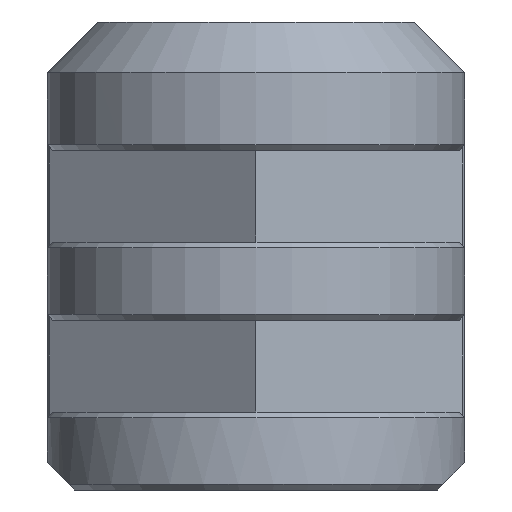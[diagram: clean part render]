
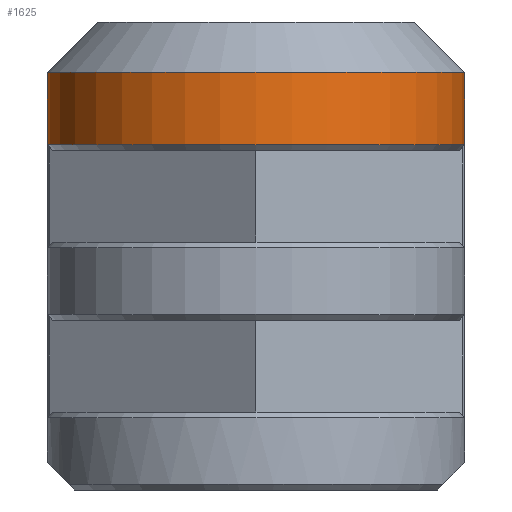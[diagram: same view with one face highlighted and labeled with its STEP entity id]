
A CAD part, left-side view. The second image highlights one B-rep face of the part: STEP entity #1625.
In plain terms, the highlighted cylindrical face has radius 7.5 mm (diameter 15 mm), a partial arc.
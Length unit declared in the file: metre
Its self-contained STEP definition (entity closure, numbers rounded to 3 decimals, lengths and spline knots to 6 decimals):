
#32=ELLIPSE('',#1742,0.010607,0.0075);
#33=ELLIPSE('',#1744,0.010607,0.0075);
#46=CIRCLE('',#1741,0.0075);
#47=CIRCLE('',#1743,0.0075);
#70=CYLINDRICAL_SURFACE('',#1740,0.0075);
#147=ORIENTED_EDGE('',*,*,#587,.T.);
#148=ORIENTED_EDGE('',*,*,#611,.T.);
#149=ORIENTED_EDGE('',*,*,#563,.F.);
#150=ORIENTED_EDGE('',*,*,#612,.T.);
#151=ORIENTED_EDGE('',*,*,#613,.T.);
#152=ORIENTED_EDGE('',*,*,#614,.T.);
#563=EDGE_CURVE('',#797,#798,#948,.T.);
#587=EDGE_CURVE('',#822,#821,#972,.T.);
#611=EDGE_CURVE('',#821,#798,#46,.F.);
#612=EDGE_CURVE('',#797,#841,#32,.F.);
#613=EDGE_CURVE('',#841,#842,#47,.F.);
#614=EDGE_CURVE('',#842,#822,#33,.T.);
#797=VERTEX_POINT('',#2341);
#798=VERTEX_POINT('',#2343);
#821=VERTEX_POINT('',#2390);
#822=VERTEX_POINT('',#2392);
#841=VERTEX_POINT('',#2442);
#842=VERTEX_POINT('',#2444);
#948=LINE('',#2342,#1145);
#972=LINE('',#2391,#1169);
#1145=VECTOR('',#1872,1.);
#1169=VECTOR('',#1898,1.);
#1336=EDGE_LOOP('',(#147,#148,#149,#150,#151,#152));
#1447=FACE_BOUND('',#1336,.T.);
#1625=ADVANCED_FACE('',(#1447),#70,.T.);
#1740=AXIS2_PLACEMENT_3D('',#2439,#1942,#1943);
#1741=AXIS2_PLACEMENT_3D('',#2440,#1944,#1945);
#1742=AXIS2_PLACEMENT_3D('',#2441,#1946,#1947);
#1743=AXIS2_PLACEMENT_3D('',#2443,#1948,#1949);
#1744=AXIS2_PLACEMENT_3D('',#2445,#1950,#1951);
#1872=DIRECTION('',(0.,0.,-1.));
#1898=DIRECTION('',(0.,0.,-1.));
#1942=DIRECTION('',(0.,0.,-1.));
#1943=DIRECTION('',(-1.,0.,0.));
#1944=DIRECTION('',(0.,0.,-1.));
#1945=DIRECTION('',(-1.,0.,0.));
#1946=DIRECTION('',(0.,0.707,-0.707));
#1947=DIRECTION('',(0.,-0.707,-0.707));
#1948=DIRECTION('',(0.,0.,1.));
#1949=DIRECTION('',(1.,0.,0.));
#1950=DIRECTION('',(0.,0.707,0.707));
#1951=DIRECTION('',(0.,0.707,-0.707));
#2341=CARTESIAN_POINT('',(-0.045,-0.0075,0.014));
#2342=CARTESIAN_POINT('',(-0.045,-0.0075,0.015));
#2343=CARTESIAN_POINT('',(-0.045,-0.0075,0.0124));
#2390=CARTESIAN_POINT('',(-0.045,0.0075,0.0124));
#2391=CARTESIAN_POINT('',(-0.045,0.0075,0.015));
#2392=CARTESIAN_POINT('',(-0.045,0.0075,0.014));
#2439=CARTESIAN_POINT('',(-0.045,0.,0.015));
#2440=CARTESIAN_POINT('',(-0.045,0.,0.0124));
#2441=CARTESIAN_POINT('',(-0.045,0.,0.0215));
#2442=CARTESIAN_POINT('',(-0.041258,-0.0065,0.015));
#2443=CARTESIAN_POINT('',(-0.045,0.,0.015));
#2444=CARTESIAN_POINT('',(-0.041258,0.0065,0.015));
#2445=CARTESIAN_POINT('',(-0.045,0.,0.0215));
